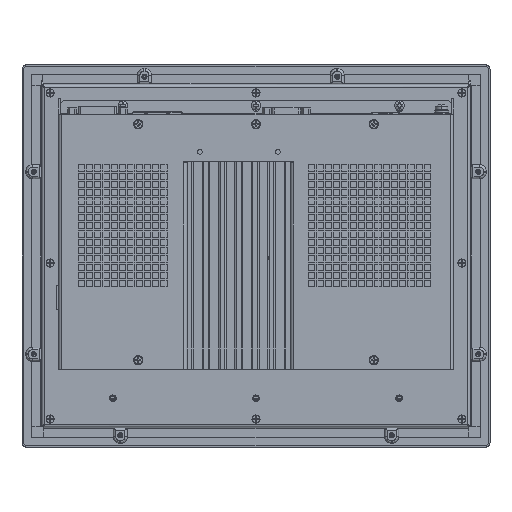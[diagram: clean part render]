
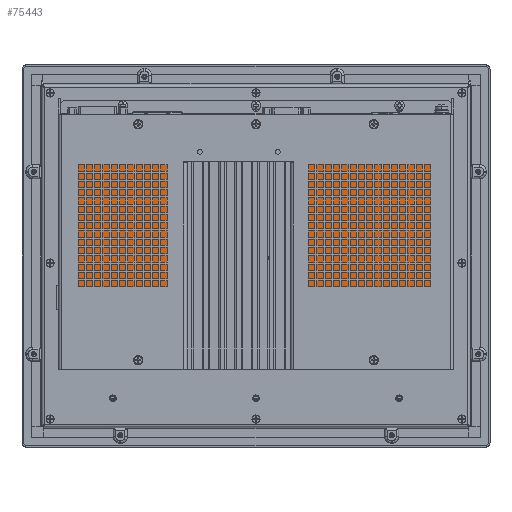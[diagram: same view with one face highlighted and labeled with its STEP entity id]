
A CAD part, front view. The second image highlights one B-rep face of the part: STEP entity #75443.
In plain terms, the highlighted planar face has unit normal (0, 1, 0).
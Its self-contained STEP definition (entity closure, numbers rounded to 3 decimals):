
#51248=DIRECTION('',(0.,0.,-1.));
#51249=VECTOR('',#51248,1.);
#51250=CARTESIAN_POINT('',(24.25,-47.1,65.25));
#51251=LINE('',#51250,#51249);
#51252=DIRECTION('',(0.,0.,1.));
#51253=VECTOR('',#51252,163.5);
#51254=CARTESIAN_POINT('',(124.5,-47.1,-68.25));
#51255=LINE('',#51254,#51253);
#51256=DIRECTION('',(0.,0.,-1.));
#51257=VECTOR('',#51256,163.5);
#51258=CARTESIAN_POINT('',(-124.5,-47.1,95.25));
#51259=LINE('',#51258,#51257);
#51260=DIRECTION('',(0.,0.,1.));
#51261=VECTOR('',#51260,132.5);
#51262=CARTESIAN_POINT('',(-46.25,-47.1,-68.25));
#51263=LINE('',#51262,#51261);
#51264=DIRECTION('',(0.,0.,1.));
#51265=VECTOR('',#51264,1.);
#51266=CARTESIAN_POINT('',(-46.25,-47.1,64.25));
#51267=LINE('',#51266,#51265);
#51268=DIRECTION('',(1.,0.,0.));
#51269=VECTOR('',#51268,2.);
#51270=CARTESIAN_POINT('',(-46.25,-47.1,65.25));
#51271=LINE('',#51270,#51269);
#51272=DIRECTION('',(1.,0.,0.));
#51273=VECTOR('',#51272,66.5);
#51274=CARTESIAN_POINT('',(-44.25,-47.1,65.25));
#51275=LINE('',#51274,#51273);
#51276=DIRECTION('',(1.,0.,0.));
#51277=VECTOR('',#51276,2.);
#51278=CARTESIAN_POINT('',(22.25,-47.1,65.25));
#51279=LINE('',#51278,#51277);
#51392=DIRECTION('',(1.,0.,0.));
#51393=VECTOR('',#51392,100.25);
#51394=CARTESIAN_POINT('',(24.25,-47.1,-68.25));
#51395=LINE('',#51394,#51393);
#51404=DIRECTION('',(1.,0.,0.));
#51405=VECTOR('',#51404,249.);
#51406=CARTESIAN_POINT('',(-124.5,-47.1,95.25));
#51407=LINE('',#51406,#51405);
#51420=DIRECTION('',(1.,0.,0.));
#51421=VECTOR('',#51420,78.25);
#51422=CARTESIAN_POINT('',(-124.5,-47.1,-68.25));
#51423=LINE('',#51422,#51421);
#51529=DIRECTION('',(0.,0.,1.));
#51530=VECTOR('',#51529,132.5);
#51531=CARTESIAN_POINT('',(24.25,-47.1,-68.25));
#51532=LINE('',#51531,#51530);
#64496=CARTESIAN_POINT('',(124.5,-47.1,-68.25));
#64498=VERTEX_POINT('',#64496);
#64500=CARTESIAN_POINT('',(124.5,-47.1,95.25));
#64501=VERTEX_POINT('',#64500);
#64508=CARTESIAN_POINT('',(-124.5,-47.1,-68.25));
#64509=VERTEX_POINT('',#64508);
#64510=CARTESIAN_POINT('',(-124.5,-47.1,95.25));
#64511=VERTEX_POINT('',#64510);
#64526=CARTESIAN_POINT('',(-46.25,-47.1,-68.25));
#64527=VERTEX_POINT('',#64526);
#64534=CARTESIAN_POINT('',(-46.25,-47.1,64.25));
#64535=CARTESIAN_POINT('',(-46.25,-47.1,65.25));
#64536=VERTEX_POINT('',#64534);
#64537=VERTEX_POINT('',#64535);
#64538=CARTESIAN_POINT('',(-44.25,-47.1,65.25));
#64539=VERTEX_POINT('',#64538);
#64554=CARTESIAN_POINT('',(24.25,-47.1,-68.25));
#64555=VERTEX_POINT('',#64554);
#64564=CARTESIAN_POINT('',(24.25,-47.1,64.25));
#64565=CARTESIAN_POINT('',(24.25,-47.1,65.25));
#64566=VERTEX_POINT('',#64564);
#64567=VERTEX_POINT('',#64565);
#64568=CARTESIAN_POINT('',(22.25,-47.1,65.25));
#64569=VERTEX_POINT('',#64568);
#75412=CARTESIAN_POINT('',(-124.5,-47.1,-68.25));
#75413=DIRECTION('',(0.,-1.,0.));
#75414=DIRECTION('',(1.,0.,0.));
#75415=AXIS2_PLACEMENT_3D('',#75412,#75413,#75414);
#75416=PLANE('',#75415);
#75418=ORIENTED_EDGE('',*,*,#75417,.T.);
#75420=ORIENTED_EDGE('',*,*,#75419,.F.);
#75422=ORIENTED_EDGE('',*,*,#75421,.T.);
#75424=ORIENTED_EDGE('',*,*,#75423,.T.);
#75426=ORIENTED_EDGE('',*,*,#75425,.F.);
#75428=ORIENTED_EDGE('',*,*,#75427,.T.);
#75430=ORIENTED_EDGE('',*,*,#75429,.T.);
#75432=ORIENTED_EDGE('',*,*,#75431,.T.);
#75434=ORIENTED_EDGE('',*,*,#75433,.T.);
#75436=ORIENTED_EDGE('',*,*,#75435,.T.);
#75438=ORIENTED_EDGE('',*,*,#75437,.T.);
#75440=ORIENTED_EDGE('',*,*,#75439,.T.);
#75441=EDGE_LOOP('',(#75418,#75420,#75422,#75424,#75426,#75428,#75430,#75432,
#75434,#75436,#75438,#75440));
#75442=FACE_OUTER_BOUND('',#75441,.F.);
#75417=EDGE_CURVE('',#64567,#64566,#51251,.T.);
#75419=EDGE_CURVE('',#64555,#64566,#51532,.T.);
#75421=EDGE_CURVE('',#64555,#64498,#51395,.T.);
#75423=EDGE_CURVE('',#64498,#64501,#51255,.T.);
#75425=EDGE_CURVE('',#64511,#64501,#51407,.T.);
#75427=EDGE_CURVE('',#64511,#64509,#51259,.T.);
#75429=EDGE_CURVE('',#64509,#64527,#51423,.T.);
#75431=EDGE_CURVE('',#64527,#64536,#51263,.T.);
#75433=EDGE_CURVE('',#64536,#64537,#51267,.T.);
#75435=EDGE_CURVE('',#64537,#64539,#51271,.T.);
#75437=EDGE_CURVE('',#64539,#64569,#51275,.T.);
#75439=EDGE_CURVE('',#64569,#64567,#51279,.T.);
#75443=ADVANCED_FACE('',(#75442),#75416,.F.);
